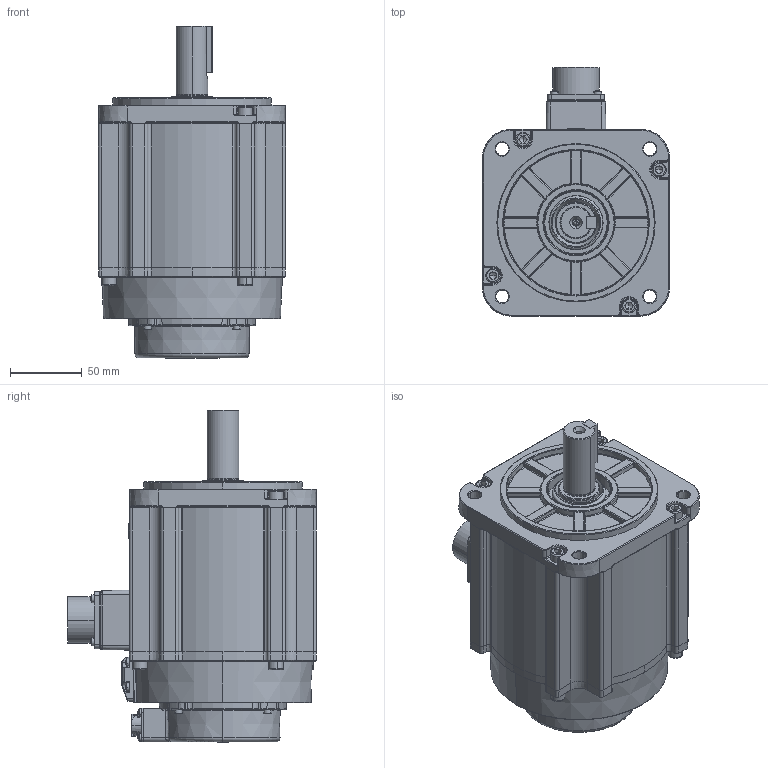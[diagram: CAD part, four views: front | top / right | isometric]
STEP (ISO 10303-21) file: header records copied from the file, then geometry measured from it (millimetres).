
FILE_DESCRIPTION (( 'STEP AP203' ), '1' );
FILE_NAME ('4031320-[][][][]_130µç»ú_DM1S-20A130[]8E.STEP', '2020-06-08T11:35:42', ( '' ), ( '' ), 'SwSTEP 2.0', 'SolidWorks 2018', '' );
FILE_SCHEMA (( 'CONFIG_CONTROL_DESIGN' ));
Length unit declared in the file: millimetre
Products named in the file (1): 4031320-[][][][]_130萇儂_DM1S-20A130[]8E
Bounding box: 130 x 173 x 230.7 mm (x, y, z)
Surface area: 159277.6 mm2 (no closed solid volume)
Topology: 0 solids, 63 shells, 1434 faces, 4399 edges, 2870 vertices
Faces by surface type: plane 464, cylinder 351, cone 216, bspline 198, torus 164, sphere 41
Entity records: 56299 total; most frequent: CARTESIAN_POINT 18914, DIRECTION 7851, ORIENTED_EDGE 7288, EDGE_CURVE 4342, AXIS2_PLACEMENT_3D 3011, VERTEX_POINT 2868, VECTOR 1829, LINE 1829
